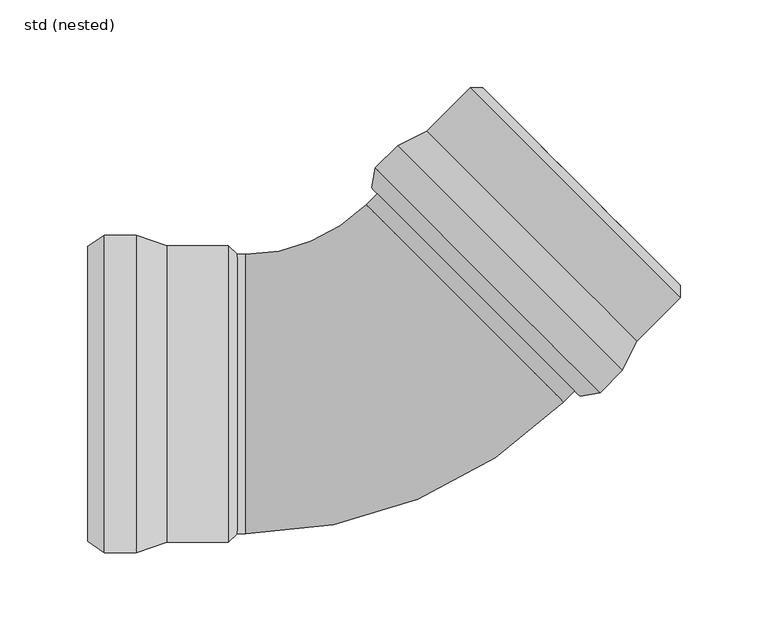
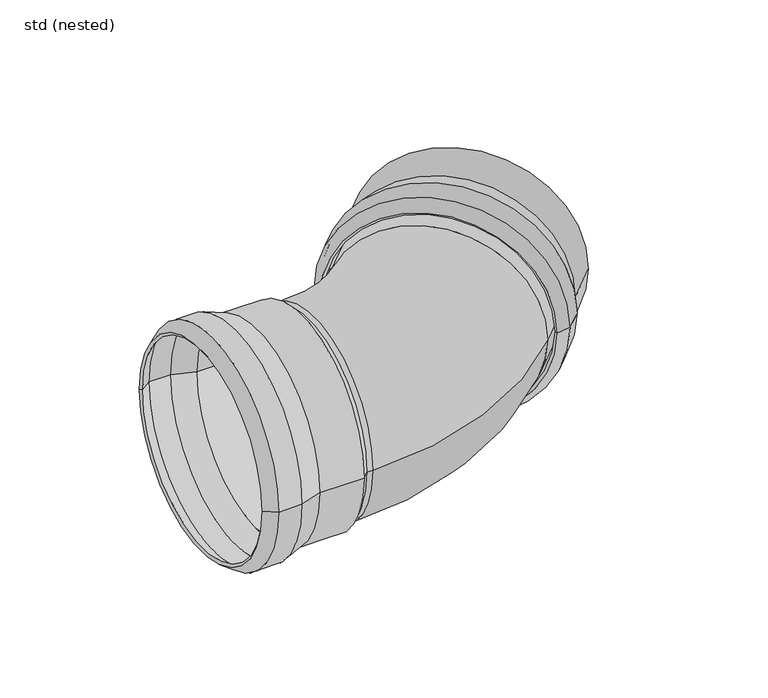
"""IFC4 building model written with IfcOpenShell, lengths in millimetres: pipe fitting geometry, ZZZ_do not use_PIF_ST_UN_GM-X pipe bend_ACO : std (nested)."""

from ifc_helpers import new_model, si_unit, point, frame, origin, place, context, project, spatial, polyline, circle_curve, ellipse_curve, trimmed, source, transform, mapped, element, save
from ifc_brep_helpers import plane_surface, cylinder_surface, revolved_surface, advanced_brep


def std_nested_0864587b(model_context):
    return source(origin(), model_context, "Body", "AdvancedBrep", [
        advanced_brep(
        [(13.4350288, 141.4213562, 0.0), (141.4213562, 13.4350288, 0.0), (128.6934342, 0.7071068, 0.0), (0.7071068, 128.6934342, 0.0), (30.0520382, 149.5530842, 0.0), (149.5530842, 30.0520382, 0.0), (117.3797257, -1.4142136, 0.0), (-1.4142136, 117.3797257, 0.0), (54.8007755, 174.3018216, 0.0), (174.3018216, 54.8007755, 0.0), (61.8718434, 174.3018216, 0.0), (174.3018216, 61.8718434, 0.0), (58.3363094, 170.7662877, 0.0), (170.7662877, 58.3363094, 0.0), (31.5251773, 147.4906894, 0.0), (147.4906894, 31.5251773, 0.0), (172.5340546, 56.5685425, 0.0), (56.5685425, 172.5340546, 0.0), (14.908168, 139.3589615, 0.0), (139.3589615, 14.908168, 0.0), (3.0217568, 127.4725503, 0.0), (127.4725503, 3.0217568, 0.0), (1.0429669, 116.9190043, 0.0), (116.9190043, 1.0429669, 0.0)],
        [
            (0, 1, circle_curve(frame((77.4281925, 77.4281925, 0.0), z_axis=(-0.7071067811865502, -0.7071067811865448, 0.0), x_axis=(0.7071067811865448, -0.7071067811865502, 0.0)), 90.5)),
            (1, 2),
            (2, 3, circle_curve(frame((64.7002705, 64.7002705, 0.0), z_axis=(0.7071067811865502, 0.7071067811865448, 0.0), x_axis=(0.7071067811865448, -0.7071067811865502, 0.0)), 90.5)),
            (3, 0),
            (1, 0, circle_curve(frame((77.4281925, 77.4281925, 0.0), z_axis=(-0.7071067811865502, -0.7071067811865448, 0.0), x_axis=(0.7071067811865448, -0.7071067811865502, 0.0)), 90.5)),
            (3, 2, circle_curve(frame((64.7002705, 64.7002705, 0.0), z_axis=(0.7071067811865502, 0.7071067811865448, 0.0), x_axis=(0.7071067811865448, -0.7071067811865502, 0.0)), 90.5)),
            (4, 5, circle_curve(frame((89.8025612, 89.8025612, 0.0), z_axis=(-0.7071067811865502, -0.7071067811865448, 0.0), x_axis=(0.7071067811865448, -0.7071067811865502, 0.0)), 84.5)),
            (5, 1),
            (0, 4),
            (5, 4, circle_curve(frame((89.8025612, 89.8025612, 0.0), z_axis=(-0.7071067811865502, -0.7071067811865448, 0.0), x_axis=(0.7071067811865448, -0.7071067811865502, 0.0)), 84.5)),
            (2, 6),
            (6, 7, circle_curve(frame((57.9827561, 57.9827561, 0.0), z_axis=(0.7071067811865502, 0.7071067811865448, 0.0), x_axis=(0.7071067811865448, -0.7071067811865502, 0.0)), 84.0)),
            (7, 3),
            (7, 6, circle_curve(frame((57.9827561, 57.9827561, 0.0), z_axis=(0.7071067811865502, 0.7071067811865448, 0.0), x_axis=(0.7071067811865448, -0.7071067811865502, 0.0)), 84.0)),
            (8, 9, circle_curve(frame((114.5512986, 114.5512986, 0.0), z_axis=(-0.7071067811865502, -0.7071067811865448, 0.0), x_axis=(0.7071067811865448, -0.7071067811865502, 0.0)), 84.5)),
            (9, 5),
            (4, 8),
            (9, 8, circle_curve(frame((114.5512986, 114.5512986, 0.0), z_axis=(-0.7071067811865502, -0.7071067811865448, 0.0), x_axis=(0.7071067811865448, -0.7071067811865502, 0.0)), 84.5)),
            (10, 11, circle_curve(frame((118.0868325, 118.0868325, 0.0), z_axis=(-0.7071067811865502, -0.7071067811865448, 0.0), x_axis=(0.7071067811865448, -0.7071067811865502, 0.0)), 79.5)),
            (11, 9),
            (8, 10),
            (11, 10, circle_curve(frame((118.0868325, 118.0868325, 0.0), z_axis=(-0.7071067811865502, -0.7071067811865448, 0.0), x_axis=(0.7071067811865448, -0.7071067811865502, 0.0)), 79.5)),
            (12, 13, circle_curve(frame((114.5512986, 114.5512986, 0.0), z_axis=(-0.7071067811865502, -0.7071067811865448, 0.0), x_axis=(0.7071067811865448, -0.7071067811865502, 0.0)), 79.5)),
            (13, 11),
            (10, 12),
            (13, 12, circle_curve(frame((114.5512986, 114.5512986, 0.0), z_axis=(-0.7071067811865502, -0.7071067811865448, 0.0), x_axis=(0.7071067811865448, -0.7071067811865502, 0.0)), 79.5)),
            (14, 15, circle_curve(frame((89.5079334, 89.5079334, 0.0), z_axis=(-0.7071067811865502, -0.7071067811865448, 0.0), x_axis=(0.7071067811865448, -0.7071067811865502, 0.0)), 82.0)),
            (15, 16),
            (16, 17, circle_curve(frame((114.5512986, 114.5512986, 0.0), z_axis=(0.7071067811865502, 0.7071067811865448, 0.0), x_axis=(0.7071067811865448, -0.7071067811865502, 0.0)), 82.0)),
            (17, 14),
            (15, 14, circle_curve(frame((89.5079334, 89.5079334, 0.0), z_axis=(-0.7071067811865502, -0.7071067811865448, 0.0), x_axis=(0.7071067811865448, -0.7071067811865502, 0.0)), 82.0)),
            (17, 16, circle_curve(frame((114.5512986, 114.5512986, 0.0), z_axis=(0.7071067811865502, 0.7071067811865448, 0.0), x_axis=(0.7071067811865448, -0.7071067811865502, 0.0)), 82.0)),
            (18, 19, circle_curve(frame((77.1335647, 77.1335647, 0.0), z_axis=(-0.7071067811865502, -0.7071067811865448, 0.0), x_axis=(0.7071067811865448, -0.7071067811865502, 0.0)), 88.0)),
            (19, 15),
            (14, 18),
            (19, 18, circle_curve(frame((77.1335647, 77.1335647, 0.0), z_axis=(-0.7071067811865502, -0.7071067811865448, 0.0), x_axis=(0.7071067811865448, -0.7071067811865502, 0.0)), 88.0)),
            (20, 21, circle_curve(frame((65.2471535, 65.2471535, 0.0), z_axis=(-0.7071067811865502, -0.7071067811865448, 0.0), x_axis=(0.7071067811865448, -0.7071067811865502, 0.0)), 88.0)),
            (21, 19),
            (18, 20),
            (21, 20, circle_curve(frame((65.2471535, 65.2471535, 0.0), z_axis=(-0.7071067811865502, -0.7071067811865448, 0.0), x_axis=(0.7071067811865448, -0.7071067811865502, 0.0)), 88.0)),
            (22, 23, circle_curve(frame((58.9809856, 58.9809856, 0.0), z_axis=(-0.7071067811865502, -0.7071067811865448, 0.0), x_axis=(0.7071067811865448, -0.7071067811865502, 0.0)), 81.9367318)),
            (23, 21),
            (20, 22),
            (23, 22, circle_curve(frame((58.9809856, 58.9809856, 0.0), z_axis=(-0.7071067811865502, -0.7071067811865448, 0.0), x_axis=(0.7071067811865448, -0.7071067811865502, 0.0)), 81.9367318)),
            (6, 23),
            (22, 7),
            (16, 13),
            (12, 17),
        ],
        [
            cylinder_surface(frame((60.3555153, 60.3555153, 0.0), z_axis=(0.7071067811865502, 0.7071067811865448, 0.0), x_axis=(0.7071067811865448, -0.7071067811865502, 0.0)), 90.5),
            revolved_surface(polyline([(141.4213562, 13.4350288, 0.0), (149.5530842, 30.0520382, 0.0)]), (60.3555153, 60.3555153, 0.0), (0.7071067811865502, 0.7071067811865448, 0.0)),
            revolved_surface(polyline([(117.3797257, -1.4142136, 0.0), (128.6934342, 0.7071068, 0.0)]), (60.3555153, 60.3555153, 0.0), (0.7071067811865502, 0.7071067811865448, 0.0)),
            cylinder_surface(frame((60.3555153, 60.3555153, 0.0), z_axis=(0.7071067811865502, 0.7071067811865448, 0.0), x_axis=(0.7071067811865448, -0.7071067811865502, 0.0)), 84.5),
            revolved_surface(polyline([(174.3018216, 54.8007755, 0.0), (174.3018216, 61.8718434, 0.0)]), (60.3555153, 60.3555153, 0.0), (0.7071067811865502, 0.7071067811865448, 0.0)),
            revolved_surface(polyline([(174.30182160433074, 61.87184339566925, 0.0), (170.76628765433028, 58.336309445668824, 0.0)]), (60.3555153, 60.3555153, 0.0), (0.7071067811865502, 0.7071067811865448, 0.0)),
            revolved_surface(polyline([(172.53405465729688, 56.56854254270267, 0.0), (147.49068940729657, 31.525177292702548, 0.0)]), (60.3555153, 60.3555153, 0.0), (0.7071067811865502, 0.7071067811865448, 0.0)),
            revolved_surface(polyline([(147.4906894, 31.5251773, 0.0), (139.3589615, 14.908168, 0.0)]), (60.3555153, 60.3555153, 0.0), (0.7071067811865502, 0.7071067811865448, 0.0)),
            revolved_surface(polyline([(139.35896149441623, 14.90816800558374, 0.0), (127.47255024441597, 3.0217567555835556, 0.0)]), (60.3555153, 60.3555153, 0.0), (0.7071067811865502, 0.7071067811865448, 0.0)),
            revolved_surface(polyline([(127.4725503, 3.0217568, 0.0), (116.9190043, 1.0429669, 0.0)]), (60.3555153, 60.3555153, 0.0), (0.7071067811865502, 0.7071067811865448, 0.0)),
            revolved_surface(polyline([(116.9190043, 1.0429669, 0.0), (117.3797257, -1.4142136, 0.0)]), (60.3555153, 60.3555153, 0.0), (0.7071067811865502, 0.7071067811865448, 0.0)),
            plane_surface(frame((114.5512986, 114.5512986, 0.0), z_axis=(-0.7071067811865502, -0.7071067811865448, 0.0), x_axis=(0.7071067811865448, -0.7071067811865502, 0.0))),
        ],
        [
            (0, [[1, 2, 3, 4]]),
            (0, [[5, -4, 6, -2]]),
            (1, [[7, 8, -1, 9]]),
            (1, [[10, -9, -5, -8]]),
            (2, [[-3, 11, 12, 13]]),
            (2, [[-6, -13, 14, -11]]),
            (3, [[15, 16, -7, 17]]),
            (3, [[18, -17, -10, -16]]),
            (4, [[19, 20, -15, 21]]),
            (4, [[22, -21, -18, -20]]),
            (5, [[23, 24, -19, 25]]),
            (5, [[26, -25, -22, -24]]),
            (6, [[27, 28, 29, 30]]),
            (6, [[31, -30, 32, -28]]),
            (7, [[33, 34, -27, 35]]),
            (7, [[36, -35, -31, -34]]),
            (8, [[37, 38, -33, 39]]),
            (8, [[40, -39, -36, -38]]),
            (9, [[41, 42, -37, 43]]),
            (9, [[44, -43, -40, -42]]),
            (10, [[-12, 45, -41, 46]]),
            (10, [[-14, -46, -44, -45]]),
            (11, [[-29, 47, -23, 48]]),
            (11, [[-32, -48, -26, -47]]),
        ],
    ),
        advanced_brep(
        [(-135.5, 90.5, 0.0), (-135.5, -90.5, 0.0), (-153.5, -90.5, 0.0), (-153.5, 90.5, 0.0), (-118.0, 84.5, 0.0), (-118.0, -84.5, 0.0), (-163.0, -84.0, 0.0), (-163.0, 84.0, 0.0), (-83.0, 84.5, 0.0), (-83.0, -84.5, 0.0), (-78.0, 79.5, 0.0), (-78.0, -79.5, 0.0), (-83.0, 79.5, 0.0), (-83.0, -79.5, 0.0), (-118.4166667, 82.0, 0.0), (-118.4166667, -82.0, 0.0), (-83.0, -82.0, 0.0), (-83.0, 82.0, 0.0), (-135.9166667, 88.0, 0.0), (-135.9166667, -88.0, 0.0), (-152.7265906, 88.0, 0.0), (-152.7265906, -88.0, 0.0), (-161.5882902, 81.9367318, 0.0), (-161.5882902, -81.9367318, 0.0)],
        [
            (0, 1, circle_curve(frame((-135.5, 0.0, 0.0), z_axis=(-1.0, 0.0, 0.0), x_axis=(0.0, -1.0, 0.0)), 90.5)),
            (1, 2),
            (2, 3, circle_curve(frame((-153.5, 0.0, 0.0), z_axis=(1.0, 0.0, 0.0), x_axis=(0.0, -1.0, 0.0)), 90.5)),
            (3, 0),
            (1, 0, circle_curve(frame((-135.5, 0.0, 0.0), z_axis=(-1.0, 0.0, 0.0), x_axis=(0.0, -1.0, 0.0)), 90.5)),
            (3, 2, circle_curve(frame((-153.5, 0.0, 0.0), z_axis=(1.0, 0.0, 0.0), x_axis=(0.0, -1.0, 0.0)), 90.5)),
            (4, 5, circle_curve(frame((-118.0, 0.0, 0.0), z_axis=(-1.0, 0.0, 0.0), x_axis=(0.0, -1.0, 0.0)), 84.5)),
            (5, 1),
            (0, 4),
            (5, 4, circle_curve(frame((-118.0, 0.0, 0.0), z_axis=(-1.0, 0.0, 0.0), x_axis=(0.0, -1.0, 0.0)), 84.5)),
            (2, 6),
            (6, 7, circle_curve(frame((-163.0, 0.0, 0.0), z_axis=(1.0, 0.0, 0.0), x_axis=(0.0, -1.0, 0.0)), 84.0)),
            (7, 3),
            (7, 6, circle_curve(frame((-163.0, 0.0, 0.0), z_axis=(1.0, 0.0, 0.0), x_axis=(0.0, -1.0, 0.0)), 84.0)),
            (8, 9, circle_curve(frame((-83.0, 0.0, 0.0), z_axis=(-1.0, 0.0, 0.0), x_axis=(0.0, -1.0, 0.0)), 84.5)),
            (9, 5),
            (4, 8),
            (9, 8, circle_curve(frame((-83.0, 0.0, 0.0), z_axis=(-1.0, 0.0, 0.0), x_axis=(0.0, -1.0, 0.0)), 84.5)),
            (10, 11, circle_curve(frame((-78.0, 0.0, 0.0), z_axis=(-1.0, 0.0, 0.0), x_axis=(0.0, -1.0, 0.0)), 79.5)),
            (11, 9),
            (8, 10),
            (11, 10, circle_curve(frame((-78.0, 0.0, 0.0), z_axis=(-1.0, 0.0, 0.0), x_axis=(0.0, -1.0, 0.0)), 79.5)),
            (12, 13, circle_curve(frame((-83.0, 0.0, 0.0), z_axis=(-1.0, 0.0, 0.0), x_axis=(0.0, -1.0, 0.0)), 79.5)),
            (13, 11),
            (10, 12),
            (13, 12, circle_curve(frame((-83.0, 0.0, 0.0), z_axis=(-1.0, 0.0, 0.0), x_axis=(0.0, -1.0, 0.0)), 79.5)),
            (14, 15, circle_curve(frame((-118.4166667, 0.0, 0.0), z_axis=(-1.0, 0.0, 0.0), x_axis=(0.0, -1.0, 0.0)), 82.0)),
            (15, 16),
            (16, 17, circle_curve(frame((-83.0, 0.0, 0.0), z_axis=(1.0, 0.0, 0.0), x_axis=(0.0, -1.0, 0.0)), 82.0)),
            (17, 14),
            (15, 14, circle_curve(frame((-118.4166667, 0.0, 0.0), z_axis=(-1.0, 0.0, 0.0), x_axis=(0.0, -1.0, 0.0)), 82.0)),
            (17, 16, circle_curve(frame((-83.0, 0.0, 0.0), z_axis=(1.0, 0.0, 0.0), x_axis=(0.0, -1.0, 0.0)), 82.0)),
            (18, 19, circle_curve(frame((-135.9166667, 0.0, 0.0), z_axis=(-1.0, 0.0, 0.0), x_axis=(0.0, -1.0, 0.0)), 88.0)),
            (19, 15),
            (14, 18),
            (19, 18, circle_curve(frame((-135.9166667, 0.0, 0.0), z_axis=(-1.0, 0.0, 0.0), x_axis=(0.0, -1.0, 0.0)), 88.0)),
            (20, 21, circle_curve(frame((-152.7265906, 0.0, 0.0), z_axis=(-1.0, 0.0, 0.0), x_axis=(0.0, -1.0, 0.0)), 88.0)),
            (21, 19),
            (18, 20),
            (21, 20, circle_curve(frame((-152.7265906, 0.0, 0.0), z_axis=(-1.0, 0.0, 0.0), x_axis=(0.0, -1.0, 0.0)), 88.0)),
            (22, 23, circle_curve(frame((-161.5882902, 0.0, 0.0), z_axis=(-1.0, 0.0, 0.0), x_axis=(0.0, -1.0, 0.0)), 81.9367318)),
            (23, 21),
            (20, 22),
            (23, 22, circle_curve(frame((-161.5882902, 0.0, 0.0), z_axis=(-1.0, 0.0, 0.0), x_axis=(0.0, -1.0, 0.0)), 81.9367318)),
            (6, 23),
            (22, 7),
            (16, 13),
            (12, 17),
        ],
        [
            cylinder_surface(frame((-159.6444117, 0.0, 0.0), z_axis=(1.0, 0.0, 0.0), x_axis=(0.0, -1.0, 0.0)), 90.5),
            revolved_surface(polyline([(-135.5, -90.5, 0.0), (-118.0, -84.5, 0.0)]), (-159.6444117, 0.0, 0.0), (1.0, 0.0, 0.0)),
            revolved_surface(polyline([(-163.0, -84.0, 0.0), (-153.5, -90.5, 0.0)]), (-159.6444117, 0.0, 0.0), (1.0, 0.0, 0.0)),
            cylinder_surface(frame((-159.6444117, 0.0, 0.0), z_axis=(1.0, 0.0, 0.0), x_axis=(0.0, -1.0, 0.0)), 84.5),
            revolved_surface(polyline([(-83.0, -84.5, 0.0), (-78.0, -79.5, 0.0)]), (-159.6444117, 0.0, 0.0), (1.0, 0.0, 0.0)),
            revolved_surface(polyline([(-78.0, -79.5, 0.0), (-83.0, -79.5, 0.0)]), (-159.6444117, 0.0, 0.0), (1.0, 0.0, 0.0)),
            revolved_surface(polyline([(-83.0, -82.0, 0.0), (-118.4166667, -82.0, 0.0)]), (-159.6444117, 0.0, 0.0), (1.0, 0.0, 0.0)),
            revolved_surface(polyline([(-118.4166667, -82.0, 0.0), (-135.9166667, -88.0, 0.0)]), (-159.6444117, 0.0, 0.0), (1.0, 0.0, 0.0)),
            revolved_surface(polyline([(-135.9166667, -88.0, 0.0), (-152.7265906, -88.0, 0.0)]), (-159.6444117, 0.0, 0.0), (1.0, 0.0, 0.0)),
            revolved_surface(polyline([(-152.7265906, -88.0, 0.0), (-161.5882902, -81.9367318, 0.0)]), (-159.6444117, 0.0, 0.0), (1.0, 0.0, 0.0)),
            revolved_surface(polyline([(-161.5882902, -81.9367318, 0.0), (-163.0, -84.0, 0.0)]), (-159.6444117, 0.0, 0.0), (1.0, 0.0, 0.0)),
            plane_surface(frame((-83.0, 0.0, 0.0), z_axis=(-1.0, 0.0, 0.0), x_axis=(0.0, -1.0, 0.0))),
        ],
        [
            (0, [[1, 2, 3, 4]]),
            (0, [[5, -4, 6, -2]]),
            (1, [[7, 8, -1, 9]]),
            (1, [[10, -9, -5, -8]]),
            (2, [[-3, 11, 12, 13]]),
            (2, [[-6, -13, 14, -11]]),
            (3, [[15, 16, -7, 17]]),
            (3, [[18, -17, -10, -16]]),
            (4, [[19, 20, -15, 21]]),
            (4, [[22, -21, -18, -20]]),
            (5, [[23, 24, -19, 25]]),
            (5, [[26, -25, -22, -24]]),
            (6, [[27, 28, 29, 30]]),
            (6, [[31, -30, 32, -28]]),
            (7, [[33, 34, -27, 35]]),
            (7, [[36, -35, -31, -34]]),
            (8, [[37, 38, -33, 39]]),
            (8, [[40, -39, -36, -38]]),
            (9, [[41, 42, -37, 43]]),
            (9, [[44, -43, -40, -42]]),
            (10, [[-12, 45, -41, 46]]),
            (10, [[-14, -46, -44, -45]]),
            (11, [[-29, 47, -23, 48]]),
            (11, [[-32, -48, -26, -47]]),
        ],
    ),
        advanced_brep(
        [(-4.5961941, 107.8337841, 0.0), (-73.0, 79.5, 0.0), (-73.0, -79.5, 0.0), (107.8337841, -4.5961941, 0.0), (51.618795, 51.618795, 79.5), (51.618795, 51.618795, -79.5), (-83.0, -79.5, 0.0), (-83.0, 79.5, 0.0), (170.7662877, 58.3363094, 0.0), (58.3363094, 170.7662877, 0.0)],
        [
            (0, 1, circle_curve(frame((-73.0, 176.2375901, 0.0), z_axis=(0.0, 0.0, -1.0), x_axis=(0.0, -1.0, 0.0)), 96.7375901)),
            (1, 2, circle_curve(frame((-73.0, 0.0, 0.0), z_axis=(1.0, 0.0, 0.0), x_axis=(0.0, 1.0, 0.0)), 79.5)),
            (2, 3, circle_curve(frame((-73.0, 176.2375901, 0.0), z_axis=(0.0, 0.0, 1.0), x_axis=(0.0, -1.0, 0.0)), 255.7375901)),
            (3, 4, circle_curve(frame((51.618795, 51.618795, 0.0), z_axis=(-0.7071067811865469, -0.7071067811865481, 0.0), x_axis=(-0.7071067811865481, 0.7071067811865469, 0.0)), 79.5)),
            (4, 0, circle_curve(frame((51.618795, 51.618795, 0.0), z_axis=(-0.7071067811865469, -0.7071067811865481, 0.0), x_axis=(-0.7071067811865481, 0.7071067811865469, 0.0)), 79.5)),
            (0, 5, circle_curve(frame((51.618795, 51.618795, 0.0), z_axis=(-0.7071067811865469, -0.7071067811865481, 0.0), x_axis=(-0.7071067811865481, 0.7071067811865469, 0.0)), 79.5)),
            (5, 3, circle_curve(frame((51.618795, 51.618795, 0.0), z_axis=(-0.7071067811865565, -0.7071067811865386, 0.0), x_axis=(-0.7071067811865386, 0.7071067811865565, 0.0)), 79.5)),
            (2, 1, circle_curve(frame((-73.0, 0.0, 0.0), z_axis=(1.0, 0.0, 0.0), x_axis=(0.0, 1.0, 0.0)), 79.5)),
            (6, 7, circle_curve(frame((-83.0, 0.0, 0.0), z_axis=(-1.0, 0.0, 0.0), x_axis=(0.0, 1.0, 0.0)), 79.5)),
            (7, 6, circle_curve(frame((-83.0, 0.0, 0.0), z_axis=(-1.0, 0.0, 0.0), x_axis=(0.0, 1.0, 0.0)), 79.5)),
            (7, 1),
            (2, 6),
            (8, 9, circle_curve(frame((114.5512986, 114.5512986, 0.0), z_axis=(0.7071067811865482, 0.7071067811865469, 0.0), x_axis=(-0.7071067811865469, 0.7071067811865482, 0.0)), 79.5)),
            (9, 8, circle_curve(frame((114.5512986, 114.5512986, 0.0), z_axis=(0.7071067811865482, 0.7071067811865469, 0.0), x_axis=(-0.7071067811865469, 0.7071067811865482, 0.0)), 79.5)),
            (9, 0),
            (3, 8),
        ],
        [
            revolved_surface(trimmed(ellipse_curve(frame((-73.0, 0.0, 0.0), z_axis=(-1.0, 0.0, 0.0), x_axis=(0.0, 1.0, 0.0)), 79.5, 79.5), [point((-73.0, -79.5, 0.0))], [point((-73.0, 79.5, 0.0))], True, "CARTESIAN"), (-73.0, 176.2375901, 0.0), (0.0, 0.0, 1.0)),
            revolved_surface(trimmed(ellipse_curve(frame((-73.0, 0.0, 0.0), z_axis=(-1.0, 0.0, 0.0), x_axis=(0.0, 1.0, 0.0)), 79.5, 79.5), [point((-73.0, 79.5, 0.0))], [point((-73.0, -79.5, 0.0))], True, "CARTESIAN"), (-73.0, 176.2375901, 0.0), (0.0, 0.0, 1.0)),
            plane_surface(frame((-83.0, 79.5, 0.0), z_axis=(-1.0, 0.0, 0.0), x_axis=(0.0, 0.0, -1.0))),
            cylinder_surface(frame((-83.0, 0.0, 0.0), z_axis=(1.0, 0.0, 0.0), x_axis=(0.0, 1.0, 0.0)), 79.5),
            plane_surface(frame((114.5512986, 114.5512986, 0.0), z_axis=(0.7071067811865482, 0.7071067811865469, 0.0), x_axis=(0.0, 0.0, 1.0))),
            cylinder_surface(frame((51.618795, 51.618795, 0.0), z_axis=(-0.7071067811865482, -0.7071067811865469, 0.0), x_axis=(-0.7071067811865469, 0.7071067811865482, 0.0)), 79.5),
        ],
        [
            (0, [[1, 2, 3, 4, 5]]),
            (1, [[-1, 6, 7, -3, 8]]),
            (2, [[9, 10]]),
            (3, [[-10, 11, -8, 12]]),
            (3, [[-9, -12, -2, -11]]),
            (4, [[13, 14]]),
            (5, [[-14, 15, -5, -4, 16]]),
            (5, [[-13, -16, -7, -6, -15]]),
        ],
    ),
    ])


if __name__ == "__main__":
    model = new_model("IFC4")
    model_context = context("Model", 3, world=origin())
    ifc_project = project(units=[si_unit("LENGTHUNIT", "METRE", prefix="MILLI")], contexts=[model_context])
    site = spatial("IfcSite", under=ifc_project)
    building = spatial("IfcBuilding", under=site)
    placement = place(None, origin())
    std_nested_shape = std_nested_0864587b(model_context)
    element("IfcPipeFitting", 1, ObjectType="ZZZ_do not use_PIF_ST_UN_GM-X pipe bend_ACO : std (nested)", at=placement, inside=building, context=model_context, shape_type="MappedRepresentation", body=[
        mapped(std_nested_shape, transform((0.0, 0.0, 0.0), x_axis=(1.0, 0.0, 0.0), y_axis=(0.0, 1.0, 0.0), z_axis=(0.0, 0.0, 1.0))),
    ])
    save(model, "model.ifc")
